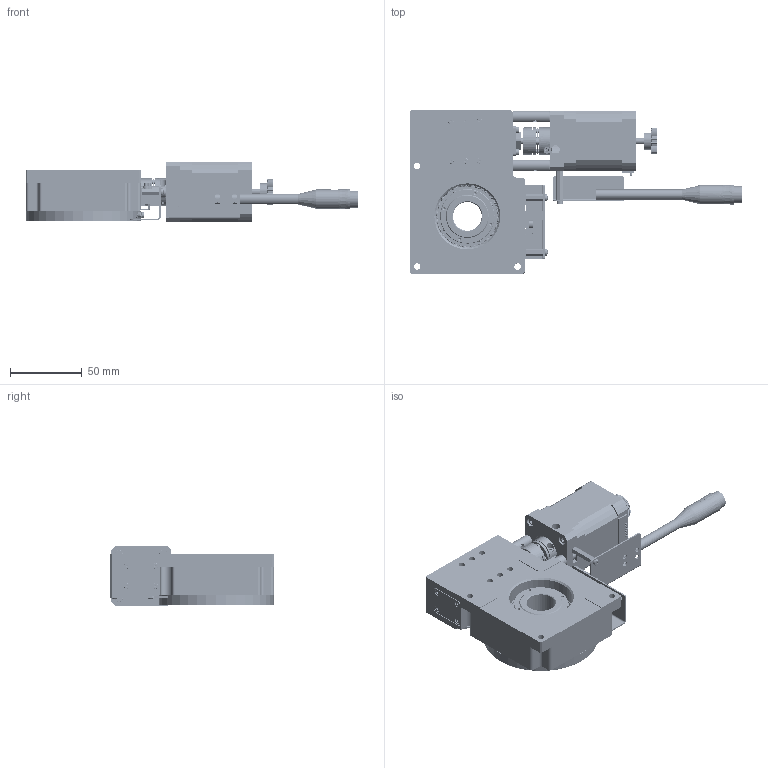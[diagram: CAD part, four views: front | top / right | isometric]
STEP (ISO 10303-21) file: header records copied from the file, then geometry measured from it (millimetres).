
FILE_DESCRIPTION (( 'STEP AP214' ), '1' );
FILE_NAME ('TRA8016-L1-M28.STEP', '2025-01-03T08:05:48', ( '' ), ( '' ), 'SwSTEP 2.0', 'SolidWorks 2020', '' );
FILE_SCHEMA (( 'AUTOMOTIVE_DESIGN' ));
Length unit declared in the file: millimetre
Products named in the file (1): TRA8016-L1-M28
Bounding box: 231.5 x 114 x 42 mm (x, y, z)
Volume: 348607.6 mm3; surface area: 155829.4 mm2
Topology: 208 solids, 212 shells, 4910 faces, 11975 edges, 7527 vertices
Faces by surface type: plane 2220, cylinder 1412, cone 576, torus 438, bspline 176, sphere 88
Entity records: 209344 total; most frequent: CARTESIAN_POINT 37820, DIRECTION 24406, ORIENTED_EDGE 23342, EDGE_CURVE 11671, AXIS2_PLACEMENT_3D 9083, VERTEX_POINT 7419, LINE 6240, VECTOR 6240
